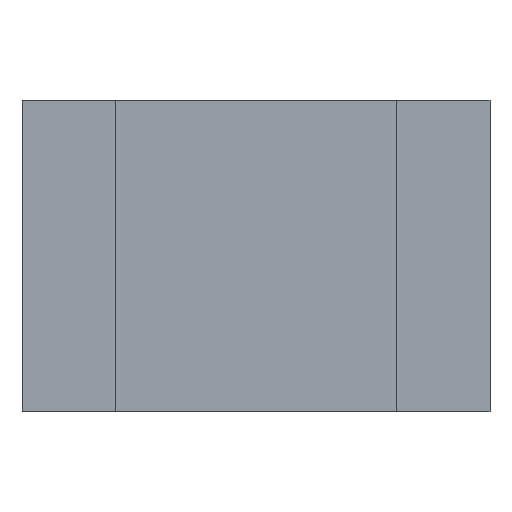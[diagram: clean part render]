
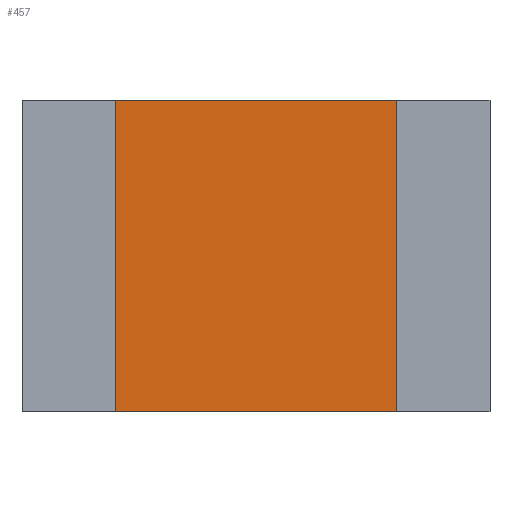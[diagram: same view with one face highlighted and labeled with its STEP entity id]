
A CAD part, top view. The second image highlights one B-rep face of the part: STEP entity #457.
In plain terms, the highlighted planar face has unit normal (0, 0, 1).
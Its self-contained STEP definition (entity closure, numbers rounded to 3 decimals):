
#39=FACE_OUTER_BOUND('',#65,.T.);
#65=EDGE_LOOP('',(#387,#388,#389,#390));
#119=LINE('',#729,#179);
#120=LINE('',#731,#180);
#121=LINE('',#733,#181);
#122=LINE('',#734,#182);
#179=VECTOR('',#603,10.);
#180=VECTOR('',#604,10.);
#181=VECTOR('',#605,10.);
#182=VECTOR('',#606,10.);
#223=VERTEX_POINT('',#727);
#224=VERTEX_POINT('',#728);
#225=VERTEX_POINT('',#730);
#226=VERTEX_POINT('',#732);
#279=EDGE_CURVE('',#223,#224,#119,.T.);
#280=EDGE_CURVE('',#225,#223,#120,.T.);
#281=EDGE_CURVE('',#226,#225,#121,.T.);
#282=EDGE_CURVE('',#224,#226,#122,.T.);
#387=ORIENTED_EDGE('',*,*,#279,.F.);
#388=ORIENTED_EDGE('',*,*,#280,.F.);
#389=ORIENTED_EDGE('',*,*,#281,.F.);
#390=ORIENTED_EDGE('',*,*,#282,.F.);
#431=PLANE('',#505);
#457=ADVANCED_FACE('',(#39),#431,.T.);
#505=AXIS2_PLACEMENT_3D('',#726,#601,#602);
#601=DIRECTION('center_axis',(0.,0.,1.));
#602=DIRECTION('ref_axis',(1.,0.,0.));
#603=DIRECTION('',(0.,1.,0.));
#604=DIRECTION('',(-1.,0.,0.));
#605=DIRECTION('',(0.,-1.,0.));
#606=DIRECTION('',(1.,0.,0.));
#726=CARTESIAN_POINT('Origin',(0.95,-0.001,0.39));
#727=CARTESIAN_POINT('',(0.,0.,0.39));
#728=CARTESIAN_POINT('',(0.,1.27,0.39));
#729=CARTESIAN_POINT('',(0.,0.,0.39));
#730=CARTESIAN_POINT('',(1.9,0.,0.39));
#731=CARTESIAN_POINT('',(1.9,0.,0.39));
#732=CARTESIAN_POINT('',(1.9,1.27,0.39));
#733=CARTESIAN_POINT('',(1.9,1.27,0.39));
#734=CARTESIAN_POINT('',(0.,1.27,0.39));
